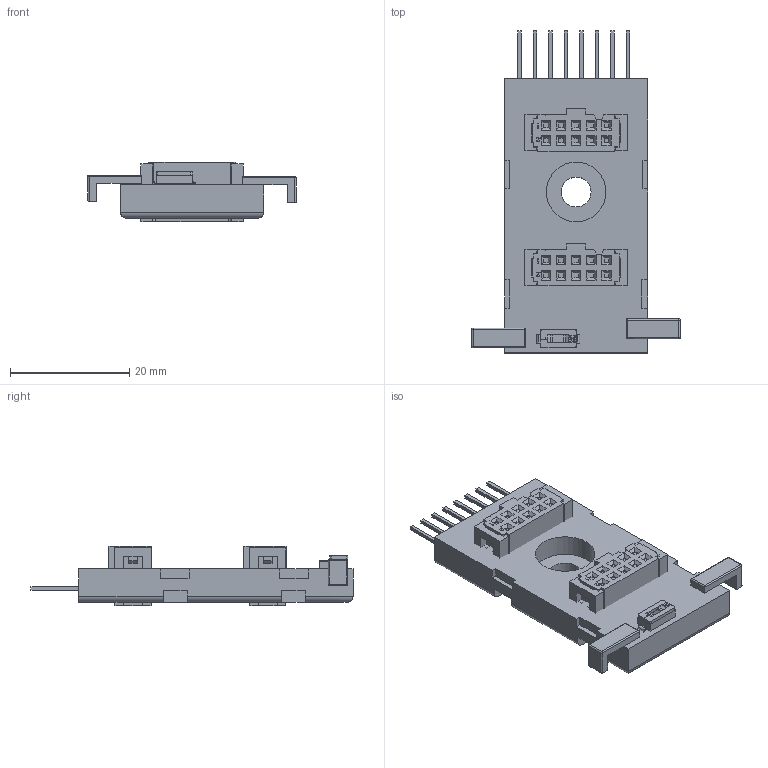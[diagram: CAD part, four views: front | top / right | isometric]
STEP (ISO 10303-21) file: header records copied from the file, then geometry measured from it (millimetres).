
FILE_DESCRIPTION(/* description */ ('FreeCAD Model'),/* implementation_level */ '2;1');
FILE_NAME(/* name */ 'C:\Users\Zambolin\Desktop\PRODOTTI\Z-PC-DIN\3d\Z-PC-DIN2-17.5.stp',/* time_stamp */ '2019-11-05T10:20:28+01:00',/* author */ ('zambolin'),/* organization */ (''),/* preprocessor_version */ 'ST-DEVELOPER v18',/* originating_system */ 'Autodesk Inventor 2020',/* authorisation */ 'Unknown');
FILE_SCHEMA (('AUTOMOTIVE_DESIGN { 1 0 10303 214 3 1 1 }'));
Length unit declared in the file: millimetre
Products named in the file (8): Z-PC-DIN2-17.5; Cut018; Fillet003; #18016; Fillet002; 43613_01; 43613_02; 10514
Assembly tree (8 placements, depth 2):
  Z-PC-DIN2-17.5
    10514  x2
    Cut018
    Fillet003
    #18016
    Fillet002
    43613_01
    43613_02
Bounding box: 34.94 x 54 x 10 mm (x, y, z)
Volume: 7685.2 mm3; surface area: 5748.6 mm2
Topology: 8 solids, 8 shells, 883 faces, 2396 edges, 1540 vertices
Faces by surface type: plane 807, cylinder 53, bspline 14, sphere 9
Full cylindrical faces by diameter (mm): 5 x1, 10 x1
Entity records: 18116 total; most frequent: CARTESIAN_POINT 3579, ORIENTED_EDGE 3014, DIRECTION 2656, EDGE_CURVE 1507, LINE 1336, VECTOR 1336, VERTEX_POINT 972, AXIS2_PLACEMENT_3D 660
